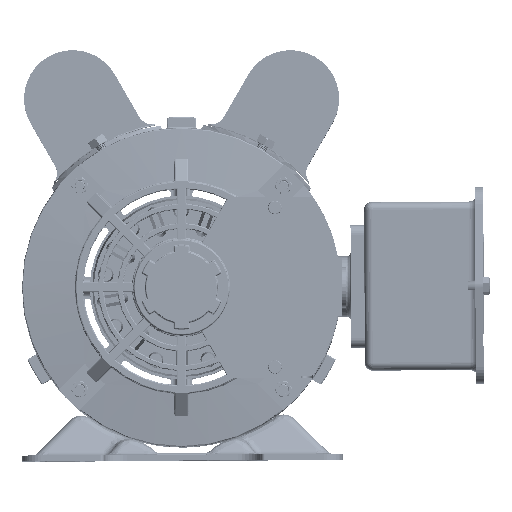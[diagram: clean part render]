
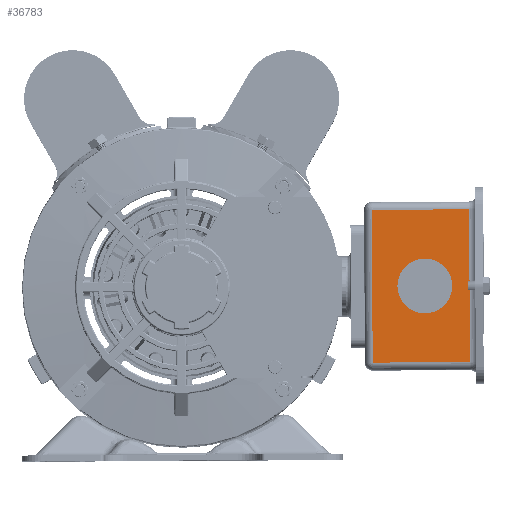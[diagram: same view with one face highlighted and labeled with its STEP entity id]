
A CAD part, top view. The second image highlights one B-rep face of the part: STEP entity #36783.
In plain terms, the highlighted planar face has unit normal (0, 0, 1) as drawn and (0, -1, 0) by its records, which use the part's own axes.
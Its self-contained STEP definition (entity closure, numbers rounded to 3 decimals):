
#1356 = CARTESIAN_POINT ( 'NONE',  ( -21.264, -36.339, 84.25 ) ) ;
#4303 = EDGE_CURVE ( 'NONE', #26666, #42472, #113736, .T. ) ;
#4998 = ORIENTED_EDGE ( 'NONE', *, *, #74128, .F. ) ;
#11281 = ORIENTED_EDGE ( 'NONE', *, *, #50116, .T. ) ;
#11618 = FACE_OUTER_BOUND ( 'NONE', #87485, .T. ) ;
#13131 = DIRECTION ( 'NONE',  ( 0., -1., 0. ) ) ;
#14739 = VECTOR ( 'NONE', #26389, 1000. ) ;
#26389 = DIRECTION ( 'NONE',  ( 1., 0., 0. ) ) ;
#26666 = VERTEX_POINT ( 'NONE', #68546 ) ;
#28435 = ORIENTED_EDGE ( 'NONE', *, *, #4303, .T. ) ;
#28560 = EDGE_CURVE ( 'NONE', #42472, #74383, #78511, .T. ) ;
#28766 = CARTESIAN_POINT ( 'NONE',  ( 17.986, -36.339, 88.25 ) ) ;
#28813 = LINE ( 'NONE', #70672, #54013 ) ;
#33988 = CARTESIAN_POINT ( 'NONE',  ( -60.514, -36.339, 88.25 ) ) ;
#36783 = ADVANCED_FACE ( 'NONE', ( #11618, #53397 ), #95180, .T. ) ;
#39656 = CARTESIAN_POINT ( 'NONE',  ( -21.264, -36.339, 111.25 ) ) ;
#42472 = VERTEX_POINT ( 'NONE', #33988 ) ;
#43134 = DIRECTION ( 'NONE',  ( 0., -1., 0. ) ) ;
#45125 = CIRCLE ( 'NONE', #121611, 14.085 ) ;
#48898 = LINE ( 'NONE', #90701, #118536 ) ;
#50116 = EDGE_CURVE ( 'NONE', #135483, #26666, #48898, .T. ) ;
#51393 = VERTEX_POINT ( 'NONE', #91568 ) ;
#51420 = CARTESIAN_POINT ( 'NONE',  ( -60.514, -36.339, 84.25 ) ) ;
#52829 = ORIENTED_EDGE ( 'NONE', *, *, #128113, .F. ) ;
#53397 = FACE_BOUND ( 'NONE', #60745, .T. ) ;
#54013 = VECTOR ( 'NONE', #112347, 1000. ) ;
#54924 = DIRECTION ( 'NONE',  ( 0., 0., -1. ) ) ;
#60745 = EDGE_LOOP ( 'NONE', ( #4998, #52829 ) ) ;
#62387 = AXIS2_PLACEMENT_3D ( 'NONE', #1356, #43134, #84928 ) ;
#68546 = CARTESIAN_POINT ( 'NONE',  ( -60.514, -36.339, 138.25 ) ) ;
#70672 = CARTESIAN_POINT ( 'NONE',  ( 17.986, -36.339, 142.25 ) ) ;
#74128 = EDGE_CURVE ( 'NONE', #85767, #51393, #45125, .T. ) ;
#74383 = VERTEX_POINT ( 'NONE', #28766 ) ;
#78511 = LINE ( 'NONE', #120205, #14739 ) ;
#81445 = DIRECTION ( 'NONE',  ( 0., -1., 0. ) ) ;
#84928 = DIRECTION ( 'NONE',  ( 0., 0., -1. ) ) ;
#85767 = VERTEX_POINT ( 'NONE', #110937 ) ;
#87485 = EDGE_LOOP ( 'NONE', ( #28435, #100473, #102877, #11281 ) ) ;
#90701 = CARTESIAN_POINT ( 'NONE',  ( -21.264, -36.339, 138.25 ) ) ;
#91287 = VECTOR ( 'NONE', #93195, 1000. ) ;
#91568 = CARTESIAN_POINT ( 'NONE',  ( -21.264, -36.339, 125.335 ) ) ;
#93195 = DIRECTION ( 'NONE',  ( 0., 0., -1. ) ) ;
#95180 = PLANE ( 'NONE',  #62387 ) ;
#97201 = EDGE_CURVE ( 'NONE', #74383, #135483, #28813, .T. ) ;
#100473 = ORIENTED_EDGE ( 'NONE', *, *, #28560, .T. ) ;
#102877 = ORIENTED_EDGE ( 'NONE', *, *, #97201, .T. ) ;
#106950 = CARTESIAN_POINT ( 'NONE',  ( -21.264, -36.339, 111.25 ) ) ;
#110937 = CARTESIAN_POINT ( 'NONE',  ( -21.264, -36.339, 97.165 ) ) ;
#112347 = DIRECTION ( 'NONE',  ( 0., 0., 1. ) ) ;
#113428 = CARTESIAN_POINT ( 'NONE',  ( 17.986, -36.339, 138.25 ) ) ;
#113736 = LINE ( 'NONE', #51420, #91287 ) ;
#117597 = CIRCLE ( 'NONE', #135074, 14.085 ) ;
#118536 = VECTOR ( 'NONE', #132419, 1000. ) ;
#120205 = CARTESIAN_POINT ( 'NONE',  ( 21.986, -36.339, 88.25 ) ) ;
#121611 = AXIS2_PLACEMENT_3D ( 'NONE', #106950, #13131, #54924 ) ;
#123163 = DIRECTION ( 'NONE',  ( 0., 0., -1. ) ) ;
#128113 = EDGE_CURVE ( 'NONE', #51393, #85767, #117597, .T. ) ;
#132419 = DIRECTION ( 'NONE',  ( -1., 0., 0. ) ) ;
#135074 = AXIS2_PLACEMENT_3D ( 'NONE', #39656, #81445, #123163 ) ;
#135483 = VERTEX_POINT ( 'NONE', #113428 ) ;
